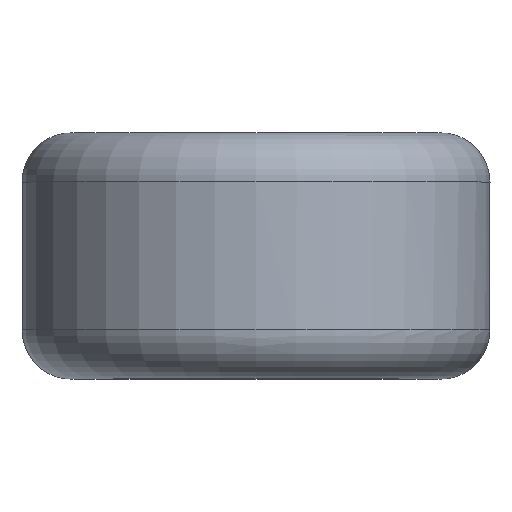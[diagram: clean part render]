
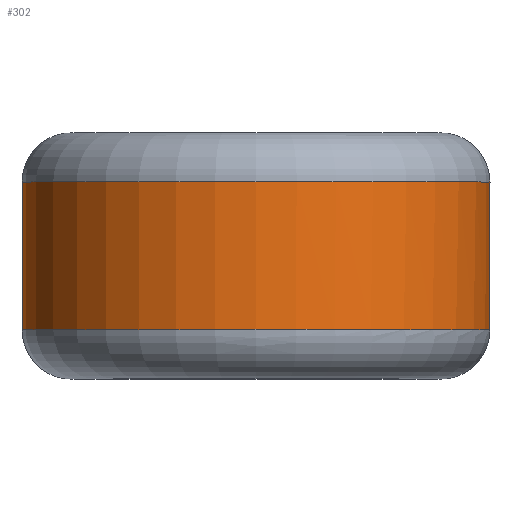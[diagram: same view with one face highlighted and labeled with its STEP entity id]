
A CAD part, top view. The second image highlights one B-rep face of the part: STEP entity #302.
In plain terms, the highlighted cylindrical face has radius 4.75 mm (diameter 9.5 mm), a full revolution.
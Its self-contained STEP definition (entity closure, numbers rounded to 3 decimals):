
#24=B_SPLINE_CURVE_WITH_KNOTS('',3,(#927,#928,#929,#930,#931,#932,#933,
#934,#935,#936),.UNSPECIFIED.,.F.,.F.,(4,1,1,1,1,1,1,4),(-0.223,
-0.191,-0.159,-0.127,-0.096,
-0.048,-0.032,0.),.UNSPECIFIED.);
#26=B_SPLINE_CURVE_WITH_KNOTS('',3,(#1004,#1005,#1006,#1007,#1008,#1009,
#1010,#1011,#1012,#1013),.UNSPECIFIED.,.F.,.F.,(4,1,1,1,1,1,1,4),(-0.223,
-0.191,-0.159,-0.127,-0.096,
-0.064,-0.032,0.),.UNSPECIFIED.);
#72=FACE_OUTER_BOUND('',#92,.T.);
#92=EDGE_LOOP('',(#241,#242,#243,#244,#245,#246,#247,#248,#249,#250));
#105=LINE('',#998,#108);
#108=VECTOR('',#407,4.75);
#120=CIRCLE('',#347,4.75);
#121=CIRCLE('',#348,4.75);
#122=CIRCLE('',#349,4.75);
#123=CIRCLE('',#351,4.75);
#124=CIRCLE('',#352,4.75);
#125=CIRCLE('',#353,4.75);
#143=VERTEX_POINT('',#923);
#144=VERTEX_POINT('',#925);
#147=VERTEX_POINT('',#990);
#148=VERTEX_POINT('',#993);
#149=VERTEX_POINT('',#997);
#150=VERTEX_POINT('',#999);
#151=VERTEX_POINT('',#1001);
#152=VERTEX_POINT('',#1003);
#176=EDGE_CURVE('',#143,#144,#24,.T.);
#181=EDGE_CURVE('',#144,#147,#120,.T.);
#182=EDGE_CURVE('',#148,#143,#121,.T.);
#183=EDGE_CURVE('',#147,#148,#122,.T.);
#184=EDGE_CURVE('',#148,#149,#105,.T.);
#185=EDGE_CURVE('',#149,#150,#123,.T.);
#186=EDGE_CURVE('',#150,#151,#124,.T.);
#187=EDGE_CURVE('',#151,#152,#26,.T.);
#188=EDGE_CURVE('',#152,#149,#125,.T.);
#241=ORIENTED_EDGE('',*,*,#176,.T.);
#242=ORIENTED_EDGE('',*,*,#181,.T.);
#243=ORIENTED_EDGE('',*,*,#183,.T.);
#244=ORIENTED_EDGE('',*,*,#184,.T.);
#245=ORIENTED_EDGE('',*,*,#185,.T.);
#246=ORIENTED_EDGE('',*,*,#186,.T.);
#247=ORIENTED_EDGE('',*,*,#187,.T.);
#248=ORIENTED_EDGE('',*,*,#188,.T.);
#249=ORIENTED_EDGE('',*,*,#184,.F.);
#250=ORIENTED_EDGE('',*,*,#182,.T.);
#292=CYLINDRICAL_SURFACE('',#350,4.75);
#302=ADVANCED_FACE('',(#72),#292,.T.);
#347=AXIS2_PLACEMENT_3D('',#992,#399,#400);
#348=AXIS2_PLACEMENT_3D('',#994,#401,#402);
#349=AXIS2_PLACEMENT_3D('',#995,#403,#404);
#350=AXIS2_PLACEMENT_3D('',#996,#405,#406);
#351=AXIS2_PLACEMENT_3D('',#1000,#408,#409);
#352=AXIS2_PLACEMENT_3D('',#1002,#410,#411);
#353=AXIS2_PLACEMENT_3D('',#1014,#412,#413);
#399=DIRECTION('center_axis',(0.,-1.,0.));
#400=DIRECTION('ref_axis',(-1.,0.,0.));
#401=DIRECTION('center_axis',(0.,-1.,0.));
#402=DIRECTION('ref_axis',(-1.,0.,0.));
#403=DIRECTION('center_axis',(0.,-1.,0.));
#404=DIRECTION('ref_axis',(-1.,0.,0.));
#405=DIRECTION('center_axis',(0.,-1.,0.));
#406=DIRECTION('ref_axis',(1.,0.,0.));
#407=DIRECTION('',(0.,-1.,0.));
#408=DIRECTION('center_axis',(0.,1.,0.));
#409=DIRECTION('ref_axis',(-1.,0.,0.));
#410=DIRECTION('center_axis',(0.,1.,0.));
#411=DIRECTION('ref_axis',(-1.,0.,0.));
#412=DIRECTION('center_axis',(0.,1.,0.));
#413=DIRECTION('ref_axis',(-1.,0.,0.));
#923=CARTESIAN_POINT('',(-3.231,1.5,-3.482));
#925=CARTESIAN_POINT('',(-2.424,1.5,-4.085));
#927=CARTESIAN_POINT('Ctrl Pts',(-3.231,1.5,-3.482));
#928=CARTESIAN_POINT('Ctrl Pts',(-3.261,1.403,-3.454));
#929=CARTESIAN_POINT('Ctrl Pts',(-3.281,1.184,-3.435));
#930=CARTESIAN_POINT('Ctrl Pts',(-3.182,0.883,-3.529));
#931=CARTESIAN_POINT('Ctrl Pts',(-2.974,0.705,-3.708));
#932=CARTESIAN_POINT('Ctrl Pts',(-2.67,0.706,-3.936));
#933=CARTESIAN_POINT('Ctrl Pts',(-2.45,0.931,-4.07));
#934=CARTESIAN_POINT('Ctrl Pts',(-2.369,1.239,-4.117));
#935=CARTESIAN_POINT('Ctrl Pts',(-2.387,1.403,-4.107));
#936=CARTESIAN_POINT('Ctrl Pts',(-2.424,1.5,-4.085));
#990=CARTESIAN_POINT('',(0.,1.5,-4.75));
#992=CARTESIAN_POINT('Origin',(0.,1.5,0.));
#993=CARTESIAN_POINT('',(-4.75,1.5,0.));
#994=CARTESIAN_POINT('Origin',(0.,1.5,0.));
#995=CARTESIAN_POINT('Origin',(0.,1.5,0.));
#996=CARTESIAN_POINT('Origin',(0.,0.,0.));
#997=CARTESIAN_POINT('',(-4.75,-1.5,0.));
#998=CARTESIAN_POINT('',(-4.75,0.,0.));
#999=CARTESIAN_POINT('',(0.,-1.5,4.75));
#1000=CARTESIAN_POINT('Origin',(0.,-1.5,0.));
#1001=CARTESIAN_POINT('',(3.231,-1.5,-3.482));
#1002=CARTESIAN_POINT('Origin',(0.,-1.5,0.));
#1003=CARTESIAN_POINT('',(2.424,-1.5,-4.085));
#1004=CARTESIAN_POINT('Ctrl Pts',(3.231,-1.5,-3.482));
#1005=CARTESIAN_POINT('Ctrl Pts',(3.261,-1.403,-3.454));
#1006=CARTESIAN_POINT('Ctrl Pts',(3.281,-1.184,-3.435));
#1007=CARTESIAN_POINT('Ctrl Pts',(3.182,-0.883,-3.529));
#1008=CARTESIAN_POINT('Ctrl Pts',(2.974,-0.705,-3.708));
#1009=CARTESIAN_POINT('Ctrl Pts',(2.714,-0.707,-3.903));
#1010=CARTESIAN_POINT('Ctrl Pts',(2.484,-0.884,-4.051));
#1011=CARTESIAN_POINT('Ctrl Pts',(2.362,-1.183,-4.121));
#1012=CARTESIAN_POINT('Ctrl Pts',(2.387,-1.403,-4.107));
#1013=CARTESIAN_POINT('Ctrl Pts',(2.424,-1.5,-4.085));
#1014=CARTESIAN_POINT('Origin',(0.,-1.5,0.));
